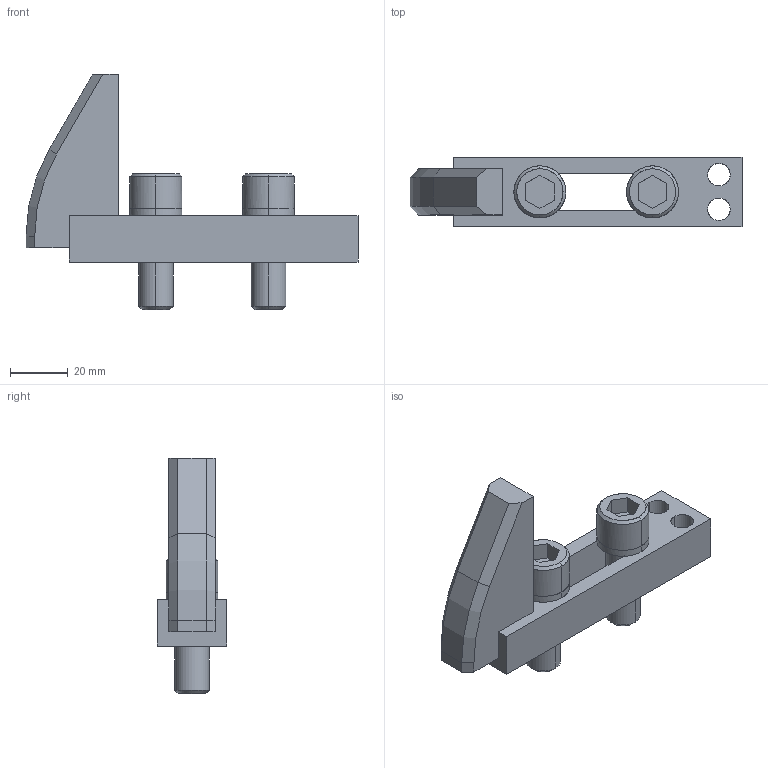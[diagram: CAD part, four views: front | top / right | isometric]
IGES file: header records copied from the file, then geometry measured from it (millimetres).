
Global section: file name: E:\UnigraphicsGraphicData\MISUMI_PRESS-PARTS\IGES\3d_ensta-65-40-m12_01412_r00.igs; native system: NX V5.0; preprocessor: UGS NX IGES V5.0; author: MISUMI; date: 20110105.160621; units: millimetre
Bounding box: 115 x 24 x 81.5 mm (x, y, z)
Surface area: 20330.3 mm2 (no closed solid volume)
Topology: 0 solids, 0 shells, 76 faces, 481 edges, 481 vertices
Faces by surface type: bspline 76
